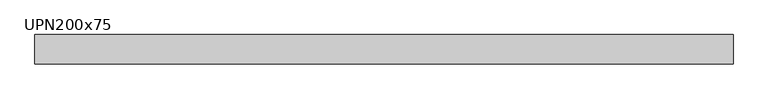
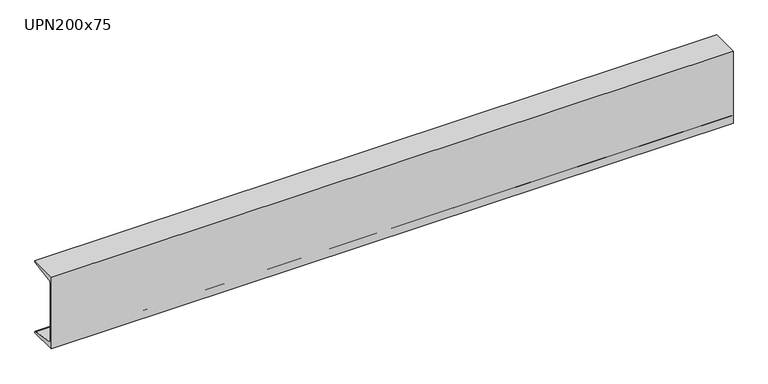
"""IFC4 building model written with IfcOpenShell, lengths in millimetres: beam geometry, M_MC Shapes : UPN200x75."""

from ifc_helpers import new_model, si_unit, point, frame, frame_2d, origin, place, context, project, spatial, polyline, circle_curve, trimmed, segment, composite_curve, outline, extrude, source, transform, mapped, element, save


def upn200x75_c14da5dc(model_context):
    return source(origin(), model_context, "Body", "SweptSolid", [
        extrude(outline(composite_curve([segment(polyline([(-10.9, 100.0), (64.1, 100.0), (64.1, 99.0253247)]), True, "CONTINUOUS"), segment(trimmed(circle_curve(frame_2d((60.15, 99.0253247)), 3.95), [point((64.1, 99.0253247))], [point((60.7993773, 95.1290689))], False, "CARTESIAN"), True, "CONTINUOUS"), segment(polyline([(60.7993773, 95.1290689), (0.2512455, 85.0376935)]), True, "CONTINUOUS"), segment(trimmed(circle_curve(frame_2d((1.55, 77.2451819)), 7.9), [point((0.2512455, 85.0376935))], [point((-6.35, 77.2451819))], True, "CARTESIAN"), True, "CONTINUOUS"), segment(polyline([(-6.35, 77.2451819), (-6.35, -77.2451819)]), True, "CONTINUOUS"), segment(trimmed(circle_curve(frame_2d((1.55, -77.2451819)), 7.9), [point((-6.35, -77.2451819))], [point((0.2512455, -85.0376935))], True, "CARTESIAN"), True, "CONTINUOUS"), segment(polyline([(0.2512455, -85.0376935), (60.7993773, -95.1290689)]), True, "CONTINUOUS"), segment(trimmed(circle_curve(frame_2d((60.15, -99.0253247)), 3.95), [point((60.7993773, -95.1290689))], [point((64.1, -99.0253247))], False, "CARTESIAN"), True, "CONTINUOUS"), segment(polyline([(64.1, -99.0253247), (64.1, -100.0), (-10.9, -100.0), (-10.9, 100.0)]), True, "CONTINUOUS")], self_intersect=False)), frame((-1009.55, 0.0, 0.0), z_axis=(1.0, 0.0, 0.0), x_axis=(0.0, 1.0, 0.0)), (0.0, 0.0, 1.0), 1793.1),
    ])


if __name__ == "__main__":
    model = new_model("IFC4")
    model_context = context("Model", 3, world=origin())
    ifc_project = project(units=[si_unit("LENGTHUNIT", "METRE", prefix="MILLI")], contexts=[model_context])
    site = spatial("IfcSite", under=ifc_project)
    building = spatial("IfcBuilding", under=site)
    placement = place(None, origin())
    upn200x75_shape = upn200x75_c14da5dc(model_context)
    element("IfcBeam", 1, ObjectType="M_MC Shapes : UPN200x75", at=placement, inside=building, context=model_context, shape_type="MappedRepresentation", body=[
        mapped(upn200x75_shape, transform((0.0, 0.0, 0.0), x_axis=(1.0, 0.0, 0.0), y_axis=(0.0, 1.0, 0.0), z_axis=(0.0, 0.0, 1.0))),
    ])
    save(model, "model.ifc")
